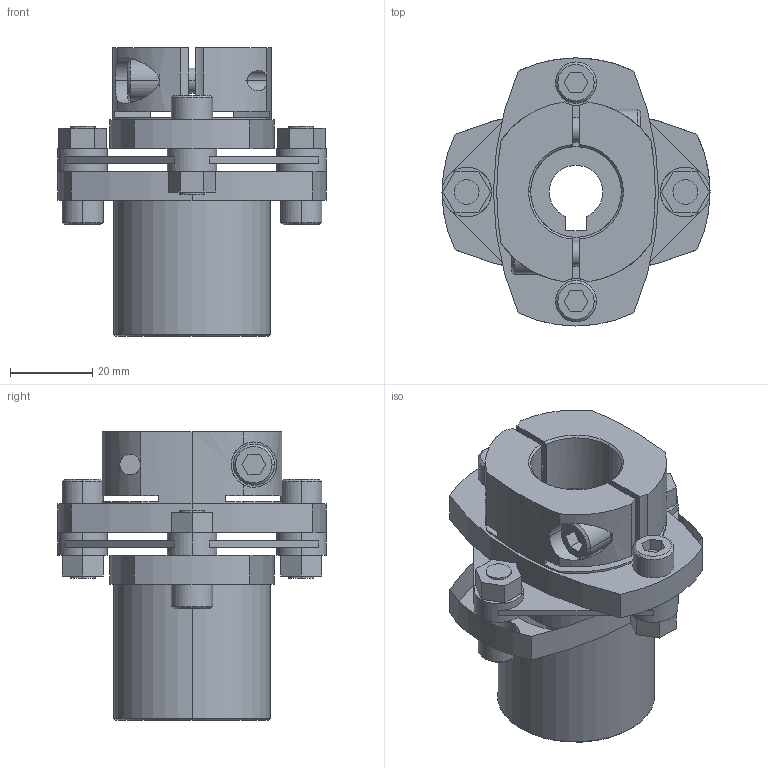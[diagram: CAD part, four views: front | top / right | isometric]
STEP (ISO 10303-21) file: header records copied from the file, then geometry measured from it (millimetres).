
FILE_DESCRIPTION((''),'2;1');
FILE_NAME('LCS-65M-16L亊22B.stp','2011-08-20T16:00:35',(''),(''),'AutoCAD STEP 2000i','AutoCAD 2000i',', , ');
FILE_SCHEMA(('CONFIG_CONTROL_DESIGN'));
Length unit declared in the file: millimetre
Products named in the file (9): LCS-65M-16L×22B; 忣兜1; LC65-B022; LC65-B016; LC65M-L016; LC65M-L011; LC65-B014-1; LC65-B014; LCS65-ITA
Assembly tree (8 placements, depth 2):
  LCS-65M-16L×22B
    忣兜1
    LC65-B022
    LC65-B016
    LC65M-L016
    LC65M-L011
    LC65-B014-1
    LC65-B014
    LCS65-ITA
Bounding box: 65 x 65 x 70 mm (x, y, z)
Volume: 78536.3 mm3; surface area: 29186.4 mm2
Topology: 1 solids, 1 shells, 222 faces, 576 edges, 376 vertices
Faces by surface type: plane 115, cylinder 84, cone 23
Entity records: 7313 total; most frequent: CARTESIAN_POINT 1471, DIRECTION 1244, ORIENTED_EDGE 1152, EDGE_CURVE 576, AXIS2_PLACEMENT_3D 455, VERTEX_POINT 376, VECTOR 334, LINE 334
